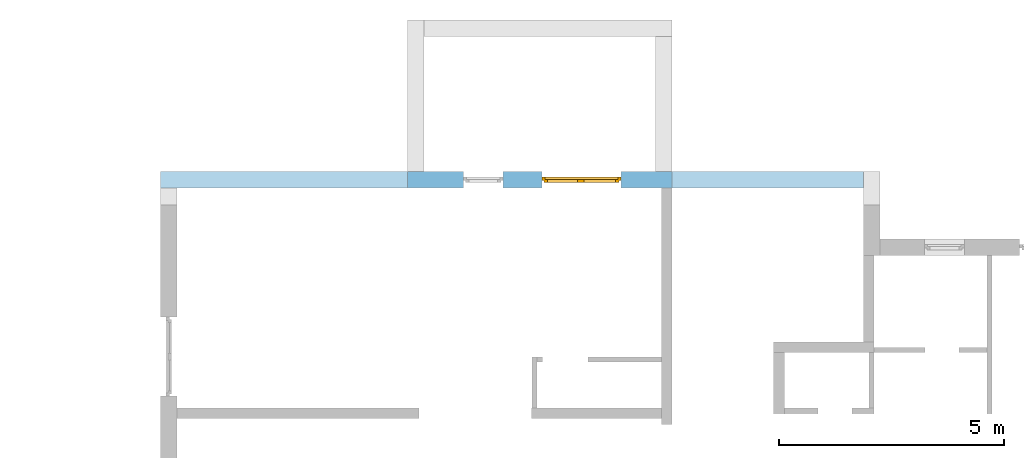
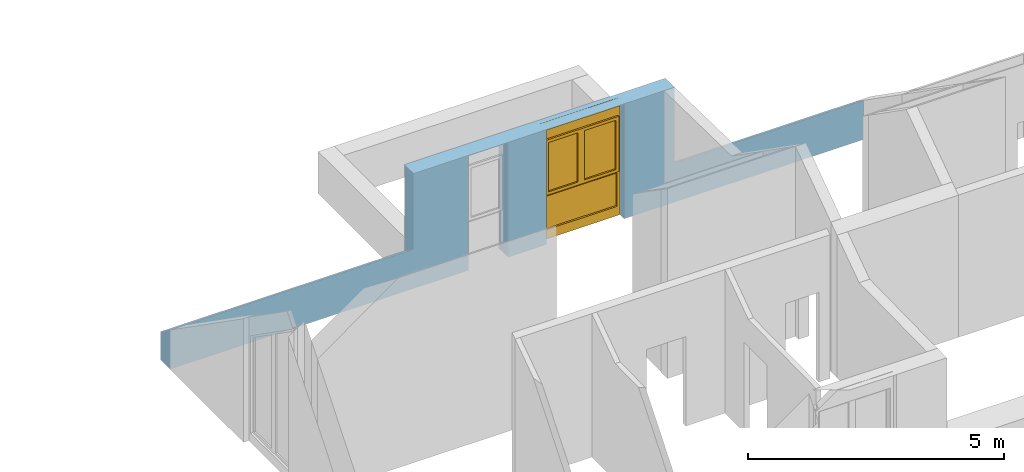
# One storey, part 15 of 23: 1 window, 2 openings, plus 1 element that does not belong to this part.
"""IFC2X3 building model written with IfcOpenShell, lengths in millimetres."""

from ifc_helpers import new_model, entity, si_unit, converted_unit, frame, frame_2d, origin, origin_with_axes, place, context, subcontext, project, spatial, polyline, rectangle, extrude, clip, bounded_halfspace, faceted_brep, material, layer, layer_set, layer_usage, type_object, element, fill, save


model = new_model("IFC2X3")

# Units and contexts
model_context = context("Model", 3, precision=1e-05, world=origin())
body_context = subcontext(model_context, "Body", "Model", "MODEL_VIEW")
ifc_project = project(units=[si_unit("LENGTHUNIT", "METRE", prefix="MILLI"), converted_unit("PLANEANGLEUNIT", "DEGREE", entity("IfcPlaneAngleMeasure", 0.0174532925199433), si_unit("PLANEANGLEUNIT", "RADIAN"), dimensions=[0, 0, 0, 0, 0, 0, 0]), si_unit("AREAUNIT", "SQUARE_METRE"), si_unit("VOLUMEUNIT", "CUBIC_METRE")], contexts=[model_context])

# Building, storey
building_placement = place(None, origin())
building = spatial("IfcBuilding", under=ifc_project, at=building_placement, Name="Gebäude", CompositionType="ELEMENT")
storey_placement = place(building_placement, frame((0.0, 0.0, 5580.0), z_axis=(0.0, 0.0, 1.0), x_axis=(1.0, 0.0, 0.0)))
storey = spatial("IfcBuildingStorey", under=building, at=storey_placement, Name="DG.- Grundriss", CompositionType="ELEMENT", Elevation=5580.0)

# Wall, openings, window
ifc_material_1 = material(Name="Poroton")
ifc_layer = layer(ifc_material_1, 365.0000000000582)
ifc_layer_set = layer_set([ifc_layer])
ifc_layer_usage = layer_usage(ifc_layer_set, "AXIS2", "POSITIVE", 0.0)
wall_placement = place(storey_placement, frame((164002.7928067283, 136274.8877324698, 0.0), z_axis=(0.0, 0.0, 1.0), x_axis=(-1.0, 0.0, 0.0)))
wall = element("IfcWallStandardCase", 1, at=wall_placement, inside=storey, material=ifc_layer_usage, Name="<Unnamed Element>", context=body_context, shape_type="Clipping", body=[
    clip(clip(clip(extrude(rectangle(XDim=15645.00000000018, YDim=365.0000000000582, at=frame_2d((7822.500000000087, 182.5000000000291), x_axis=(1.0, 0.0))), origin_with_axes(), (0.0, 0.0, 1.0), 2741.371098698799), bounded_halfspace(frame((10145.0000000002, 365.0000000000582, 935.5757514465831), z_axis=(6.652246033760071e-17, 0.5735764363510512, -0.8191520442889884), x_axis=(0.0, -0.819152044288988, -0.5735764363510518)), True, origin(), polyline([(10145.0000000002, 365.0000000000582), (10145.0000000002, 0.0), (15645.00000000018, 0.0), (15645.00000000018, 365.0000000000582), (10145.0000000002, 365.0000000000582)]))), bounded_halfspace(frame((0.0, 365.0000000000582, 935.5757514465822), z_axis=(8.588580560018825e-17, 0.5735764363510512, -0.8191520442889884), x_axis=(0.0, -0.819152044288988, -0.5735764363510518)), True, origin(), polyline([(0.0, 365.0000000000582), (0.0, 0.0), (4260.0, 0.0), (4260.0, 365.0000000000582), (0.0, 365.0000000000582)]))), bounded_halfspace(frame((4260.0, 365.0000000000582, 2741.371098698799), z_axis=(0.0, 0.01745240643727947, -0.9998476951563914), x_axis=(0.0, -0.9998476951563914, -0.01745240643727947)), True, origin(), polyline([(4260.0, 365.0000000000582), (4260.0, 0.0), (10145.0000000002, 0.0), (10145.0000000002, 365.0000000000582), (4260.0, 365.0000000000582)]))),
])
opening_1_placement = place(wall_placement, frame((8020.000000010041, 2.91038304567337e-11, 0.0), z_axis=(0.0, 1.0, 0.0), x_axis=(0.0, 0.0, 1.0)))
element("IfcOpeningElement", 2, at=opening_1_placement, cuts=wall, Name="Fensteröffnung", ObjectType="Opening", context=body_context, shape_type="SweptSolid", body=[
    extrude(rectangle(XDim=2735.0, YDim=885.0, at=frame_2d((1367.5, 442.5), x_axis=(1.0, 0.0))), origin_with_axes(), (0.0, 0.0, 1.0), 365.0000000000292),
])
opening_2_placement = place(wall_placement, frame((5395.000000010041, 5.820766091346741e-11, 0.0), z_axis=(0.0, 1.0, 0.0), x_axis=(0.0, 0.0, 1.0)))
opening_2 = element("IfcOpeningElement", 3, at=opening_2_placement, cuts=wall, Name="Fensteröffnung", ObjectType="Opening", context=body_context, shape_type="SweptSolid", body=[
    extrude(rectangle(XDim=2735.0, YDim=1760.0, at=frame_2d((1367.5, 880.0), x_axis=(1.0, 0.0))), origin_with_axes(), (0.0, 0.0, 1.0), 365.0),
])
ifc_material_2 = material()
window_style = type_object("IfcWindowStyle", Name="Fenster", ConstructionType="NOTDEFINED", OperationType="USERDEFINED", ParameterTakesPrecedence=False, Sizeable=False)
window_placement = place(opening_2_placement, frame((0.0, 0.0, 0.0), z_axis=(1.0, 0.0, 0.0), x_axis=(0.0, 1.0, 0.0)))
window = element("IfcWindow", 4, at=window_placement, inside=storey, type_object=window_style, material=ifc_material_2, Name="Fenster", OverallHeight=2741.371098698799, OverallWidth=1760.0, context=body_context, shape_type="Brep", body=[
    faceted_brep([(-1.0011707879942e-08, 199.999999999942, 2737.094607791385), (-1.0011707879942e-08, 199.9999999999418, -2.449293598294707e-15), (69.9999999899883, 199.9999999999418, -2.449293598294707e-15), (69.9999999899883, 199.999999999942, 2737.094607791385), (-1.001171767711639e-08, 119.9999999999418, 2.449293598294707e-15), (-1.001171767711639e-08, 119.999999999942, 2737.094607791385), (69.99999998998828, 119.999999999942, 2737.094607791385), (69.99999998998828, 119.9999999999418, 2.449293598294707e-15), (-1.0011707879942e-08, 199.9999999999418, -2.449293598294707e-15), (-1.0011707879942e-08, 199.999999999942, 2737.094607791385), (-1.001171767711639e-08, 119.999999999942, 2737.094607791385), (-1.001171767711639e-08, 119.9999999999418, 2.449293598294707e-15), (69.9999999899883, 199.9999999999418, -2.449293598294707e-15), (-1.0011707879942e-08, 199.9999999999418, -2.449293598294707e-15), (-1.001171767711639e-08, 119.9999999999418, 2.449293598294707e-15), (69.99999998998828, 119.9999999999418, 2.449293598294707e-15), (69.9999999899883, 199.999999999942, 2737.094607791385), (69.9999999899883, 199.9999999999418, -2.449293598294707e-15), (69.99999998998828, 119.9999999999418, 2.449293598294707e-15), (69.99999998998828, 119.999999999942, 2737.094607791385), (-1.0011707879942e-08, 199.999999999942, 2737.094607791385), (69.9999999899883, 199.999999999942, 2737.094607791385), (69.99999998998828, 119.999999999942, 2737.094607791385), (-1.001171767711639e-08, 119.999999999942, 2737.094607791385)], [[[0, 1, 2, 3]], [[4, 5, 6, 7]], [[8, 9, 10, 11]], [[12, 13, 14, 15]], [[16, 17, 18, 19]], [[20, 21, 22, 23]]], orient=[[False], [False], [False], [False], [False], [False]]),
    faceted_brep([(1690.000000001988, 199.9999999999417, 2737.094607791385), (1690.000000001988, 199.9999999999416, -2.449293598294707e-15), (1760.000000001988, 199.9999999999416, -2.449293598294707e-15), (1760.000000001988, 199.9999999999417, 2737.094607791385), (1690.000000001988, 119.9999999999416, 2.449293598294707e-15), (1690.000000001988, 119.9999999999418, 2737.094607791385), (1760.000000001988, 119.9999999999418, 2737.094607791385), (1760.000000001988, 119.9999999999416, 2.449293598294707e-15), (1690.000000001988, 199.9999999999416, -2.449293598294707e-15), (1690.000000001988, 199.9999999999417, 2737.094607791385), (1690.000000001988, 119.9999999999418, 2737.094607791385), (1690.000000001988, 119.9999999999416, 2.449293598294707e-15), (1760.000000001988, 199.9999999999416, -2.449293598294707e-15), (1690.000000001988, 199.9999999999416, -2.449293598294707e-15), (1690.000000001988, 119.9999999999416, 2.449293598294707e-15), (1760.000000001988, 119.9999999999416, 2.449293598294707e-15), (1760.000000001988, 199.9999999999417, 2737.094607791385), (1760.000000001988, 199.9999999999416, -2.449293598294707e-15), (1760.000000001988, 119.9999999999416, 2.449293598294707e-15), (1760.000000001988, 119.9999999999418, 2737.094607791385), (1690.000000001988, 199.9999999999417, 2737.094607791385), (1760.000000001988, 199.9999999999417, 2737.094607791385), (1760.000000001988, 119.9999999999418, 2737.094607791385), (1690.000000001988, 119.9999999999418, 2737.094607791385)], [[[0, 1, 2, 3]], [[4, 5, 6, 7]], [[8, 9, 10, 11]], [[12, 13, 14, 15]], [[16, 17, 18, 19]], [[20, 21, 22, 23]]], orient=[[False], [False], [False], [False], [False], [False]]),
    faceted_brep([(69.9999999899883, 199.9999999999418, 220.0), (69.9999999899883, 199.9999999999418, -2.449293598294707e-15), (1690.000000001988, 199.9999999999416, -2.449293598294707e-15), (1690.000000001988, 199.9999999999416, 220.0), (69.99999998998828, 119.9999999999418, 2.449293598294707e-15), (69.99999998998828, 119.9999999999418, 220.0), (1690.000000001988, 119.9999999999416, 220.0), (1690.000000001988, 119.9999999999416, 2.449293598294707e-15), (69.9999999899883, 199.9999999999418, -2.449293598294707e-15), (69.9999999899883, 199.9999999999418, 220.0), (69.99999998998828, 119.9999999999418, 220.0), (69.99999998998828, 119.9999999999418, 2.449293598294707e-15), (1690.000000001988, 199.9999999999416, -2.449293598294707e-15), (69.9999999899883, 199.9999999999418, -2.449293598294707e-15), (69.99999998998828, 119.9999999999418, 2.449293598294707e-15), (1690.000000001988, 119.9999999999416, 2.449293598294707e-15), (1690.000000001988, 199.9999999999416, 220.0), (1690.000000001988, 199.9999999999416, -2.449293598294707e-15), (1690.000000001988, 119.9999999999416, 2.449293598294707e-15), (1690.000000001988, 119.9999999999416, 220.0), (69.9999999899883, 199.9999999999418, 220.0), (1690.000000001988, 199.9999999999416, 220.0), (1690.000000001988, 119.9999999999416, 220.0), (69.99999998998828, 119.9999999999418, 220.0)], [[[0, 1, 2, 3]], [[4, 5, 6, 7]], [[8, 9, 10, 11]], [[12, 13, 14, 15]], [[16, 17, 18, 19]], [[20, 21, 22, 23]]], orient=[[False], [False], [False], [False], [False], [False]]),
    faceted_brep([(69.9999999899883, 199.999999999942, 2737.094607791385), (69.9999999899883, 199.9999999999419, 2367.094607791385), (1690.000000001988, 199.9999999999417, 2367.094607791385), (1690.000000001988, 199.9999999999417, 2737.094607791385), (69.99999998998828, 119.9999999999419, 2367.094607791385), (69.99999998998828, 119.999999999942, 2737.094607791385), (1690.000000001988, 119.9999999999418, 2737.094607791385), (1690.000000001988, 119.9999999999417, 2367.094607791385), (69.9999999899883, 199.9999999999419, 2367.094607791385), (69.9999999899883, 199.999999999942, 2737.094607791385), (69.99999998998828, 119.999999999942, 2737.094607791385), (69.99999998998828, 119.9999999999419, 2367.094607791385), (1690.000000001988, 199.9999999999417, 2367.094607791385), (69.9999999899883, 199.9999999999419, 2367.094607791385), (69.99999998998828, 119.9999999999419, 2367.094607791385), (1690.000000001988, 119.9999999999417, 2367.094607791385), (1690.000000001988, 199.9999999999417, 2737.094607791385), (1690.000000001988, 199.9999999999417, 2367.094607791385), (1690.000000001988, 119.9999999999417, 2367.094607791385), (1690.000000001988, 119.9999999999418, 2737.094607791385), (69.9999999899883, 199.999999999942, 2737.094607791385), (1690.000000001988, 199.9999999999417, 2737.094607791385), (1690.000000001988, 119.9999999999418, 2737.094607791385), (69.99999998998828, 119.999999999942, 2737.094607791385)], [[[0, 1, 2, 3]], [[4, 5, 6, 7]], [[8, 9, 10, 11]], [[12, 13, 14, 15]], [[16, 17, 18, 19]], [[20, 21, 22, 23]]], orient=[[False], [False], [False], [False], [False], [False]]),
    faceted_brep([(69.9999999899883, 199.9999999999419, 1090.0), (69.9999999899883, 199.9999999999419, 1020.0), (1690.000000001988, 199.9999999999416, 1020.0), (1690.000000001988, 199.9999999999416, 1090.0), (69.99999998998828, 119.9999999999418, 1020.0), (69.99999998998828, 119.9999999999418, 1090.0), (1690.000000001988, 119.9999999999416, 1090.0), (1690.000000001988, 119.9999999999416, 1020.0), (69.9999999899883, 199.9999999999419, 1020.0), (69.9999999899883, 199.9999999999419, 1090.0), (69.99999998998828, 119.9999999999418, 1090.0), (69.99999998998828, 119.9999999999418, 1020.0), (1690.000000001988, 199.9999999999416, 1020.0), (69.9999999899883, 199.9999999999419, 1020.0), (69.99999998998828, 119.9999999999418, 1020.0), (1690.000000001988, 119.9999999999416, 1020.0), (1690.000000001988, 199.9999999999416, 1090.0), (1690.000000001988, 199.9999999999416, 1020.0), (1690.000000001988, 119.9999999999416, 1020.0), (1690.000000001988, 119.9999999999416, 1090.0), (69.9999999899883, 199.9999999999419, 1090.0), (1690.000000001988, 199.9999999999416, 1090.0), (1690.000000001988, 119.9999999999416, 1090.0), (69.99999998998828, 119.9999999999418, 1090.0)], [[[0, 1, 2, 3]], [[4, 5, 6, 7]], [[8, 9, 10, 11]], [[12, 13, 14, 15]], [[16, 17, 18, 19]], [[20, 21, 22, 23]]], orient=[[False], [False], [False], [False], [False], [False]]),
    faceted_brep([(69.99999998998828, 159.9999999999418, 220.0), (1690.000000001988, 159.9999999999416, 220.0), (1690.000000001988, 159.9999999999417, 1020.0), (69.99999998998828, 159.9999999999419, 1020.0), (69.99999998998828, 158.9999999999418, 220.0), (69.99999998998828, 158.9999999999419, 1020.0), (1690.000000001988, 158.9999999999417, 1020.0), (1690.000000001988, 158.9999999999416, 220.0), (69.99999998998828, 159.9999999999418, 220.0), (69.99999998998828, 158.9999999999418, 220.0), (1690.000000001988, 158.9999999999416, 220.0), (1690.000000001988, 159.9999999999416, 220.0), (1690.000000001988, 159.9999999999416, 220.0), (1690.000000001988, 158.9999999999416, 220.0), (1690.000000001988, 158.9999999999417, 1020.0), (1690.000000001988, 159.9999999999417, 1020.0), (1690.000000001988, 159.9999999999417, 1020.0), (1690.000000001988, 158.9999999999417, 1020.0), (69.99999998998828, 158.9999999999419, 1020.0), (69.99999998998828, 159.9999999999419, 1020.0), (69.99999998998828, 159.9999999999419, 1020.0), (69.99999998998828, 158.9999999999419, 1020.0), (69.99999998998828, 158.9999999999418, 220.0), (69.99999998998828, 159.9999999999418, 220.0)], [[[0, 1, 2, 3]], [[4, 5, 6, 7]], [[8, 9, 10, 11]], [[12, 13, 14, 15]], [[16, 17, 18, 19]], [[20, 21, 22, 23]]], orient=[[False], [False], [False], [False], [False], [False]]),
    faceted_brep([(49.9999999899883, 239.9999999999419, 2387.094607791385), (49.9999999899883, 239.9999999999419, 1070.0), (119.9999999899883, 239.9999999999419, 1070.0), (119.9999999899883, 239.9999999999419, 2387.094607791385), (49.99999998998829, 169.9999999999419, 1070.0), (49.99999998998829, 169.9999999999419, 2387.094607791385), (119.9999999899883, 169.9999999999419, 2387.094607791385), (119.9999999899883, 169.9999999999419, 1070.0), (49.9999999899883, 239.9999999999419, 1070.0), (49.9999999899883, 239.9999999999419, 2387.094607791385), (49.99999998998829, 169.9999999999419, 2387.094607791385), (49.99999998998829, 169.9999999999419, 1070.0), (119.9999999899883, 239.9999999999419, 1070.0), (49.9999999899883, 239.9999999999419, 1070.0), (49.99999998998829, 169.9999999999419, 1070.0), (119.9999999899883, 169.9999999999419, 1070.0), (119.9999999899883, 239.9999999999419, 2387.094607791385), (119.9999999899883, 239.9999999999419, 1070.0), (119.9999999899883, 169.9999999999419, 1070.0), (119.9999999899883, 169.9999999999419, 2387.094607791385), (49.9999999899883, 239.9999999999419, 2387.094607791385), (119.9999999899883, 239.9999999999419, 2387.094607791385), (119.9999999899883, 169.9999999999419, 2387.094607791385), (49.99999998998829, 169.9999999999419, 2387.094607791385)], [[[0, 1, 2, 3]], [[4, 5, 6, 7]], [[8, 9, 10, 11]], [[12, 13, 14, 15]], [[16, 17, 18, 19]], [[20, 21, 22, 23]]], orient=[[False], [False], [False], [False], [False], [False]]),
    faceted_brep([(829.4999999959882, 239.9999999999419, 2387.094607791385), (829.4999999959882, 239.9999999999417, 1070.0), (899.4999999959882, 239.9999999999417, 1070.0), (899.4999999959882, 239.9999999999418, 2387.094607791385), (829.4999999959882, 169.9999999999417, 1070.0), (829.4999999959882, 169.9999999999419, 2387.094607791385), (899.4999999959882, 169.9999999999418, 2387.094607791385), (899.4999999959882, 169.9999999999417, 1070.0), (829.4999999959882, 239.9999999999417, 1070.0), (829.4999999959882, 239.9999999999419, 2387.094607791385), (829.4999999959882, 169.9999999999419, 2387.094607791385), (829.4999999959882, 169.9999999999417, 1070.0), (899.4999999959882, 239.9999999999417, 1070.0), (829.4999999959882, 239.9999999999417, 1070.0), (829.4999999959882, 169.9999999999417, 1070.0), (899.4999999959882, 169.9999999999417, 1070.0), (899.4999999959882, 239.9999999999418, 2387.094607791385), (899.4999999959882, 239.9999999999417, 1070.0), (899.4999999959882, 169.9999999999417, 1070.0), (899.4999999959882, 169.9999999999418, 2387.094607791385), (829.4999999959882, 239.9999999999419, 2387.094607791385), (899.4999999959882, 239.9999999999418, 2387.094607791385), (899.4999999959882, 169.9999999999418, 2387.094607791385), (829.4999999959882, 169.9999999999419, 2387.094607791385)], [[[0, 1, 2, 3]], [[4, 5, 6, 7]], [[8, 9, 10, 11]], [[12, 13, 14, 15]], [[16, 17, 18, 19]], [[20, 21, 22, 23]]], orient=[[False], [False], [False], [False], [False], [False]]),
    faceted_brep([(119.9999999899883, 239.9999999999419, 1140.0), (119.9999999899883, 239.9999999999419, 1070.0), (829.4999999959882, 239.9999999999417, 1070.0), (829.4999999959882, 239.9999999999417, 1140.0), (119.9999999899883, 169.9999999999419, 1070.0), (119.9999999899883, 169.9999999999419, 1140.0), (829.4999999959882, 169.9999999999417, 1140.0), (829.4999999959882, 169.9999999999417, 1070.0), (119.9999999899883, 239.9999999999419, 1070.0), (119.9999999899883, 239.9999999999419, 1140.0), (119.9999999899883, 169.9999999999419, 1140.0), (119.9999999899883, 169.9999999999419, 1070.0), (829.4999999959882, 239.9999999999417, 1070.0), (119.9999999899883, 239.9999999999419, 1070.0), (119.9999999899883, 169.9999999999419, 1070.0), (829.4999999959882, 169.9999999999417, 1070.0), (829.4999999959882, 239.9999999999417, 1140.0), (829.4999999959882, 239.9999999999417, 1070.0), (829.4999999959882, 169.9999999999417, 1070.0), (829.4999999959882, 169.9999999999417, 1140.0), (119.9999999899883, 239.9999999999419, 1140.0), (829.4999999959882, 239.9999999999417, 1140.0), (829.4999999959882, 169.9999999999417, 1140.0), (119.9999999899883, 169.9999999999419, 1140.0)], [[[0, 1, 2, 3]], [[4, 5, 6, 7]], [[8, 9, 10, 11]], [[12, 13, 14, 15]], [[16, 17, 18, 19]], [[20, 21, 22, 23]]], orient=[[False], [False], [False], [False], [False], [False]]),
    faceted_brep([(119.9999999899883, 239.9999999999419, 2387.094607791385), (119.9999999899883, 239.9999999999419, 2317.094607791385), (829.4999999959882, 239.9999999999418, 2317.094607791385), (829.4999999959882, 239.9999999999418, 2387.094607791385), (119.9999999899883, 169.9999999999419, 2317.094607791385), (119.9999999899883, 169.9999999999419, 2387.094607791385), (829.4999999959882, 169.9999999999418, 2387.094607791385), (829.4999999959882, 169.9999999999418, 2317.094607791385), (119.9999999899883, 239.9999999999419, 2317.094607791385), (119.9999999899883, 239.9999999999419, 2387.094607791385), (119.9999999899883, 169.9999999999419, 2387.094607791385), (119.9999999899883, 169.9999999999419, 2317.094607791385), (829.4999999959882, 239.9999999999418, 2317.094607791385), (119.9999999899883, 239.9999999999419, 2317.094607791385), (119.9999999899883, 169.9999999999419, 2317.094607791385), (829.4999999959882, 169.9999999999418, 2317.094607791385), (829.4999999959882, 239.9999999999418, 2387.094607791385), (829.4999999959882, 239.9999999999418, 2317.094607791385), (829.4999999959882, 169.9999999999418, 2317.094607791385), (829.4999999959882, 169.9999999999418, 2387.094607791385), (119.9999999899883, 239.9999999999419, 2387.094607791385), (829.4999999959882, 239.9999999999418, 2387.094607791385), (829.4999999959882, 169.9999999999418, 2387.094607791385), (119.9999999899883, 169.9999999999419, 2387.094607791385)], [[[0, 1, 2, 3]], [[4, 5, 6, 7]], [[8, 9, 10, 11]], [[12, 13, 14, 15]], [[16, 17, 18, 19]], [[20, 21, 22, 23]]], orient=[[False], [False], [False], [False], [False], [False]]),
    faceted_brep([(900.4999999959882, 239.9999999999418, 2387.094607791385), (900.4999999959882, 239.9999999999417, 1070.0), (970.4999999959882, 239.9999999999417, 1070.0), (970.4999999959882, 239.9999999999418, 2387.094607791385), (900.4999999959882, 169.9999999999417, 1070.0), (900.4999999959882, 169.9999999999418, 2387.094607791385), (970.4999999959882, 169.9999999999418, 2387.094607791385), (970.4999999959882, 169.9999999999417, 1070.0), (900.4999999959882, 239.9999999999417, 1070.0), (900.4999999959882, 239.9999999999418, 2387.094607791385), (900.4999999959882, 169.9999999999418, 2387.094607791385), (900.4999999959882, 169.9999999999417, 1070.0), (970.4999999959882, 239.9999999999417, 1070.0), (900.4999999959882, 239.9999999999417, 1070.0), (900.4999999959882, 169.9999999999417, 1070.0), (970.4999999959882, 169.9999999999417, 1070.0), (970.4999999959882, 239.9999999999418, 2387.094607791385), (970.4999999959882, 239.9999999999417, 1070.0), (970.4999999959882, 169.9999999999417, 1070.0), (970.4999999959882, 169.9999999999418, 2387.094607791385), (900.4999999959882, 239.9999999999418, 2387.094607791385), (970.4999999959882, 239.9999999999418, 2387.094607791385), (970.4999999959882, 169.9999999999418, 2387.094607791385), (900.4999999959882, 169.9999999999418, 2387.094607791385)], [[[0, 1, 2, 3]], [[4, 5, 6, 7]], [[8, 9, 10, 11]], [[12, 13, 14, 15]], [[16, 17, 18, 19]], [[20, 21, 22, 23]]], orient=[[False], [False], [False], [False], [False], [False]]),
    faceted_brep([(1640.000000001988, 239.9999999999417, 2387.094607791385), (1640.000000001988, 239.9999999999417, 1070.0), (1710.000000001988, 239.9999999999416, 1070.0), (1710.000000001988, 239.9999999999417, 2387.094607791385), (1640.000000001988, 169.9999999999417, 1070.0), (1640.000000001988, 169.9999999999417, 2387.094607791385), (1710.000000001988, 169.9999999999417, 2387.094607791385), (1710.000000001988, 169.9999999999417, 1070.0), (1640.000000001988, 239.9999999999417, 1070.0), (1640.000000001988, 239.9999999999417, 2387.094607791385), (1640.000000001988, 169.9999999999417, 2387.094607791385), (1640.000000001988, 169.9999999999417, 1070.0), (1710.000000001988, 239.9999999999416, 1070.0), (1640.000000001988, 239.9999999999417, 1070.0), (1640.000000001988, 169.9999999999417, 1070.0), (1710.000000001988, 169.9999999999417, 1070.0), (1710.000000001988, 239.9999999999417, 2387.094607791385), (1710.000000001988, 239.9999999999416, 1070.0), (1710.000000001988, 169.9999999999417, 1070.0), (1710.000000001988, 169.9999999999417, 2387.094607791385), (1640.000000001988, 239.9999999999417, 2387.094607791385), (1710.000000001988, 239.9999999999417, 2387.094607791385), (1710.000000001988, 169.9999999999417, 2387.094607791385), (1640.000000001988, 169.9999999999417, 2387.094607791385)], [[[0, 1, 2, 3]], [[4, 5, 6, 7]], [[8, 9, 10, 11]], [[12, 13, 14, 15]], [[16, 17, 18, 19]], [[20, 21, 22, 23]]], orient=[[False], [False], [False], [False], [False], [False]]),
    faceted_brep([(970.4999999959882, 239.9999999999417, 1140.0), (970.4999999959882, 239.9999999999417, 1070.0), (1640.000000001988, 239.9999999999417, 1070.0), (1640.000000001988, 239.9999999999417, 1140.0), (970.4999999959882, 169.9999999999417, 1070.0), (970.4999999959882, 169.9999999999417, 1140.0), (1640.000000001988, 169.9999999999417, 1140.0), (1640.000000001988, 169.9999999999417, 1070.0), (970.4999999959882, 239.9999999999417, 1070.0), (970.4999999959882, 239.9999999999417, 1140.0), (970.4999999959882, 169.9999999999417, 1140.0), (970.4999999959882, 169.9999999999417, 1070.0), (1640.000000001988, 239.9999999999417, 1070.0), (970.4999999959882, 239.9999999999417, 1070.0), (970.4999999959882, 169.9999999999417, 1070.0), (1640.000000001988, 169.9999999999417, 1070.0), (1640.000000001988, 239.9999999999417, 1140.0), (1640.000000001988, 239.9999999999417, 1070.0), (1640.000000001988, 169.9999999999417, 1070.0), (1640.000000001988, 169.9999999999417, 1140.0), (970.4999999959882, 239.9999999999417, 1140.0), (1640.000000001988, 239.9999999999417, 1140.0), (1640.000000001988, 169.9999999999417, 1140.0), (970.4999999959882, 169.9999999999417, 1140.0)], [[[0, 1, 2, 3]], [[4, 5, 6, 7]], [[8, 9, 10, 11]], [[12, 13, 14, 15]], [[16, 17, 18, 19]], [[20, 21, 22, 23]]], orient=[[False], [False], [False], [False], [False], [False]]),
    faceted_brep([(970.4999999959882, 239.9999999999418, 2387.094607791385), (970.4999999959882, 239.9999999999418, 2317.094607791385), (1640.000000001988, 239.9999999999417, 2317.094607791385), (1640.000000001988, 239.9999999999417, 2387.094607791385), (970.4999999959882, 169.9999999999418, 2317.094607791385), (970.4999999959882, 169.9999999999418, 2387.094607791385), (1640.000000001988, 169.9999999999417, 2387.094607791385), (1640.000000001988, 169.9999999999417, 2317.094607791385), (970.4999999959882, 239.9999999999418, 2317.094607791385), (970.4999999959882, 239.9999999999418, 2387.094607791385), (970.4999999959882, 169.9999999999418, 2387.094607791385), (970.4999999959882, 169.9999999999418, 2317.094607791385), (1640.000000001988, 239.9999999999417, 2317.094607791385), (970.4999999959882, 239.9999999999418, 2317.094607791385), (970.4999999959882, 169.9999999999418, 2317.094607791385), (1640.000000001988, 169.9999999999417, 2317.094607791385), (1640.000000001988, 239.9999999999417, 2387.094607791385), (1640.000000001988, 239.9999999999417, 2317.094607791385), (1640.000000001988, 169.9999999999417, 2317.094607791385), (1640.000000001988, 169.9999999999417, 2387.094607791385), (970.4999999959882, 239.9999999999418, 2387.094607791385), (1640.000000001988, 239.9999999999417, 2387.094607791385), (1640.000000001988, 169.9999999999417, 2387.094607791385), (970.4999999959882, 169.9999999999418, 2387.094607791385)], [[[0, 1, 2, 3]], [[4, 5, 6, 7]], [[8, 9, 10, 11]], [[12, 13, 14, 15]], [[16, 17, 18, 19]], [[20, 21, 22, 23]]], orient=[[False], [False], [False], [False], [False], [False]]),
    faceted_brep([(119.9999999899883, 204.9999999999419, 1140.0), (829.4999999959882, 204.9999999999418, 1140.0), (829.4999999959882, 204.9999999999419, 2317.094607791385), (119.9999999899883, 204.9999999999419, 2317.094607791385), (119.9999999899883, 203.9999999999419, 1140.0), (119.9999999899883, 203.9999999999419, 2317.094607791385), (829.4999999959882, 203.9999999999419, 2317.094607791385), (829.4999999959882, 203.9999999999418, 1140.0), (119.9999999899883, 204.9999999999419, 1140.0), (119.9999999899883, 203.9999999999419, 1140.0), (829.4999999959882, 203.9999999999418, 1140.0), (829.4999999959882, 204.9999999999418, 1140.0), (829.4999999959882, 204.9999999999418, 1140.0), (829.4999999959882, 203.9999999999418, 1140.0), (829.4999999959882, 203.9999999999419, 2317.094607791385), (829.4999999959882, 204.9999999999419, 2317.094607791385), (829.4999999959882, 204.9999999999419, 2317.094607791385), (829.4999999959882, 203.9999999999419, 2317.094607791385), (119.9999999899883, 203.9999999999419, 2317.094607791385), (119.9999999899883, 204.9999999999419, 2317.094607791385), (119.9999999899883, 204.9999999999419, 2317.094607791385), (119.9999999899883, 203.9999999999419, 2317.094607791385), (119.9999999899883, 203.9999999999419, 1140.0), (119.9999999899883, 204.9999999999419, 1140.0)], [[[0, 1, 2, 3]], [[4, 5, 6, 7]], [[8, 9, 10, 11]], [[12, 13, 14, 15]], [[16, 17, 18, 19]], [[20, 21, 22, 23]]], orient=[[False], [False], [False], [False], [False], [False]]),
    faceted_brep([(970.4999999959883, 204.9999999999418, 1140.0), (1640.000000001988, 204.9999999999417, 1140.0), (1640.000000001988, 204.9999999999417, 2317.094607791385), (970.4999999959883, 204.9999999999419, 2317.094607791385), (970.4999999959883, 203.9999999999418, 1140.0), (970.4999999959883, 203.9999999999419, 2317.094607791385), (1640.000000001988, 203.9999999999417, 2317.094607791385), (1640.000000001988, 203.9999999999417, 1140.0), (970.4999999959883, 204.9999999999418, 1140.0), (970.4999999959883, 203.9999999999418, 1140.0), (1640.000000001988, 203.9999999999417, 1140.0), (1640.000000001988, 204.9999999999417, 1140.0), (1640.000000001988, 204.9999999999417, 1140.0), (1640.000000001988, 203.9999999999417, 1140.0), (1640.000000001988, 203.9999999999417, 2317.094607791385), (1640.000000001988, 204.9999999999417, 2317.094607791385), (1640.000000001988, 204.9999999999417, 2317.094607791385), (1640.000000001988, 203.9999999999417, 2317.094607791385), (970.4999999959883, 203.9999999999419, 2317.094607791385), (970.4999999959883, 204.9999999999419, 2317.094607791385), (970.4999999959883, 204.9999999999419, 2317.094607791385), (970.4999999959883, 203.9999999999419, 2317.094607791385), (970.4999999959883, 203.9999999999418, 1140.0), (970.4999999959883, 204.9999999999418, 1140.0)], [[[0, 1, 2, 3]], [[4, 5, 6, 7]], [[8, 9, 10, 11]], [[12, 13, 14, 15]], [[16, 17, 18, 19]], [[20, 21, 22, 23]]], orient=[[False], [False], [False], [False], [False], [False]]),
])
fill(opening_2, window)

save(model, "model.ifc")
